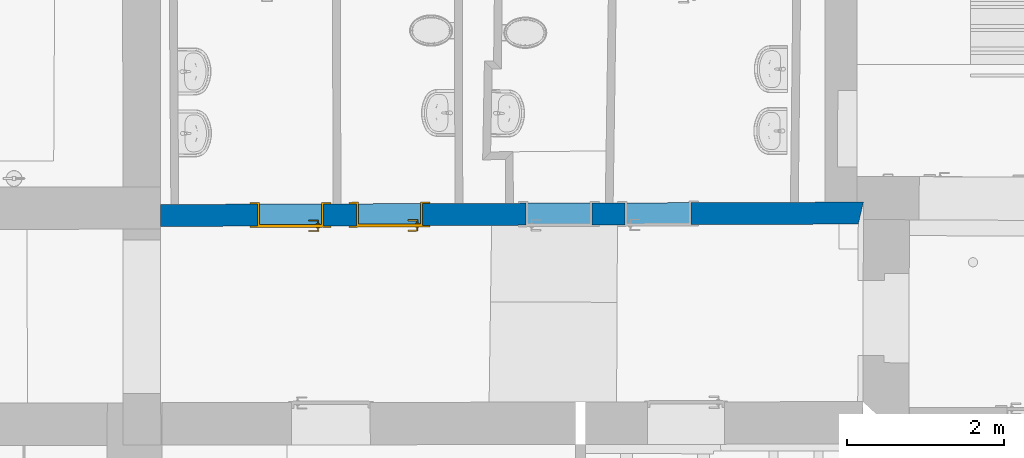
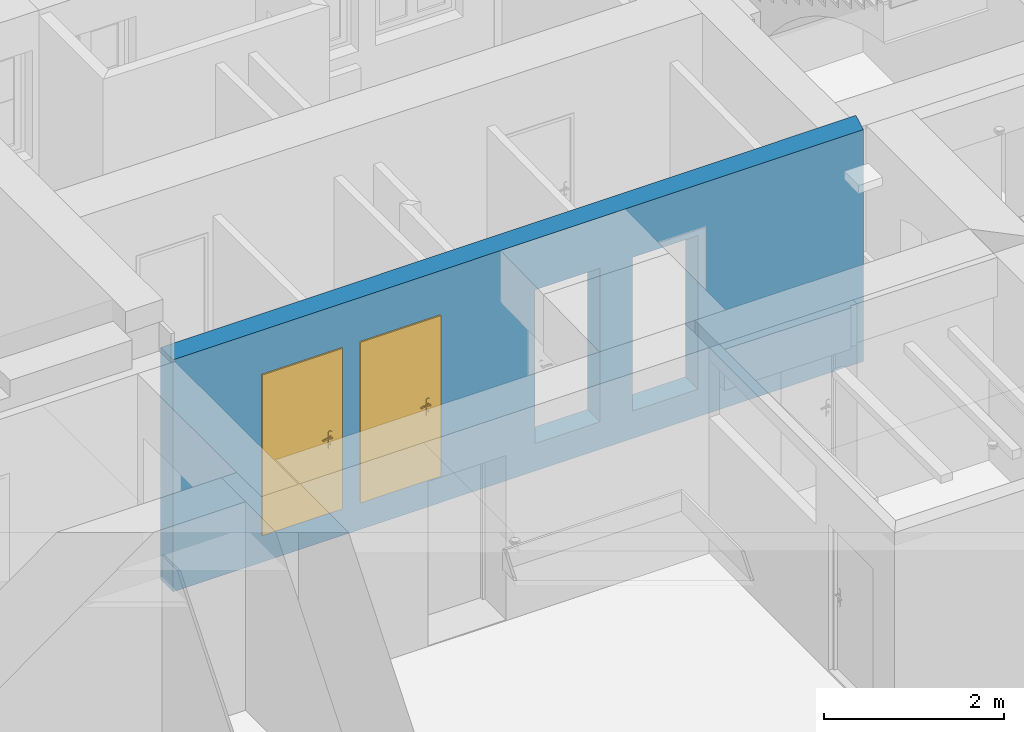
# One storey, part 47 of 196: 2 doors, 1 wall, 4 openings.
"""IFC2X3 building model written with IfcOpenShell, lengths in metres."""

from ifc_helpers import new_model, entity, si_unit, converted_unit, derived_unit, money_unit, direction, frame, origin_with_axes, origin_2d_with_axis, place, context, subcontext, project, spatial, polyline, rectangle, outline, extrude, faceted_brep, source, transform, mapped, material, layer, layer_set, layer_usage, type_object, element, fill, save


model = new_model("IFC2X3")

# Units and contexts
model_context = context("Model", 3, precision=1e-05, world=origin_with_axes(), true_north=direction((0.0, 1.0)))
body_context = subcontext(model_context, "Body", "Model", "MODEL_VIEW")
ifc_project = project(units=[si_unit("LENGTHUNIT", "METRE"), si_unit("AREAUNIT", "SQUARE_METRE"), si_unit("VOLUMEUNIT", "CUBIC_METRE"), converted_unit("PLANEANGLEUNIT", "DEGREE", entity("IfcPlaneAngleMeasure", 0.0174532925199), si_unit("PLANEANGLEUNIT", "RADIAN"), dimensions=[0, 0, 0, 0, 0, 0, 0]), money_unit("EUR"), converted_unit("TIMEUNIT", "Year", entity("IfcTimeMeasure", 31556926.0), si_unit("TIMEUNIT", "SECOND"), dimensions=[0, 0, 1, 0, 0, 0, 0]), si_unit("MASSUNIT", "GRAM", prefix="KILO"), si_unit("THERMODYNAMICTEMPERATUREUNIT", "DEGREE_CELSIUS"), si_unit("LUMINOUSINTENSITYUNIT", "LUMEN"), si_unit("ENERGYUNIT", "JOULE", prefix="MEGA"), derived_unit("THERMALCONDUCTANCEUNIT", [(si_unit("POWERUNIT", "WATT"), 1), (si_unit("LENGTHUNIT", "METRE"), -1), (si_unit("THERMODYNAMICTEMPERATUREUNIT", "KELVIN"), -1)]), derived_unit("SPECIFICHEATCAPACITYUNIT", [(si_unit("ENERGYUNIT", "JOULE"), 1), (si_unit("MASSUNIT", "GRAM", prefix="KILO"), -1), (si_unit("THERMODYNAMICTEMPERATUREUNIT", "KELVIN"), -1)]), derived_unit("MASSDENSITYUNIT", [(si_unit("MASSUNIT", "GRAM", prefix="KILO"), 1), (si_unit("VOLUMEUNIT", "CUBIC_METRE"), -1)])], contexts=[model_context])

# Site, building, storey
site_placement = place(None, origin_with_axes())
site = spatial("IfcSite", under=ifc_project, at=site_placement, Name="Gelände", CompositionType="ELEMENT")
building_placement = place(site_placement, origin_with_axes())
building = spatial("IfcBuilding", under=site, at=building_placement, Name="Gebäude", CompositionType="ELEMENT")
storey_placement = place(building_placement, frame((0.0, 0.0, -3.0), z_axis=(0.0, 0.0, 1.0), x_axis=(1.0, 0.0, 0.0)))
storey = spatial("IfcBuildingStorey", under=building, at=storey_placement, Name="KELLERGESCHOSS", CompositionType="ELEMENT", Elevation=-3.0)

# Wall, openings, doors
ifc_material = material(Name="05_ALLGEMEIN - TRAGENDE BAUTEILE")
ifc_layer = layer(ifc_material, 0.28, ventilated="UNKNOWN")
ifc_layer_set = layer_set([ifc_layer], Name="05_ALLGEMEIN - TRAGENDE BAUTEILE 0.28")
ifc_layer_usage = layer_usage(ifc_layer_set, "AXIS2", "NEGATIVE", 0.28)
wall_type = type_object("IfcWallType", Name="05_ALLGEMEIN - TRAGENDE BAUTEILE 280", PredefinedType="ELEMENTEDWALL")
wall_placement = place(storey_placement, frame((12.5479035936, 19.1983411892, -0.36), z_axis=(0.0, 0.0, 1.0), x_axis=(0.999994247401, 0.00339192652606, 0.0)))
wall = element("IfcWallStandardCase", 1, at=wall_placement, inside=storey, type_object=wall_type, material=ifc_layer_usage, Name="Wand-039", ObjectType="ELEMENTEDWALL", context=body_context, shape_type="SweptSolid", body=[
    extrude(outline(polyline([(0.480001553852, 0.0), (9.36265361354, 0.0), (9.42943294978, 0.28), (0.480714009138, 0.28), (0.480001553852, 0.0)])), origin_with_axes(), (0.0, 0.0, 1.0), 3.15),
])
opening_1_placement = place(wall_placement, frame((2.13369699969, 0.0, 0.372925), z_axis=(0.0, 0.0, 1.0), x_axis=(1.0, 0.0, 0.0)))
opening_1 = element("IfcOpeningElement", 2, at=opening_1_placement, cuts=wall, Name="Tür-022", context=body_context, shape_type="SweptSolid", body=[
    extrude(rectangle(XDim=0.840428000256, YDim=2.086604, at=origin_2d_with_axis()), frame((0.0, -0.28, 1.043302), z_axis=(0.0, 1.0, 0.0), x_axis=(-1.0, 0.0, 0.0)), (0.0, 0.0, 1.0), 0.84),
])
opening_2_placement = place(wall_placement, frame((3.39699742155, 0.0, 0.372925), z_axis=(0.0, 0.0, 1.0), x_axis=(1.0, 0.0, 0.0)))
opening_2 = element("IfcOpeningElement", 3, at=opening_2_placement, cuts=wall, Name="Tür-022", context=body_context, shape_type="SweptSolid", body=[
    extrude(rectangle(XDim=0.840428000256, YDim=2.086604, at=origin_2d_with_axis()), frame((0.0, -0.28, 1.043302), z_axis=(0.0, 1.0, 0.0), x_axis=(-1.0, 0.0, 0.0)), (0.0, 0.0, 1.0), 0.84),
])
opening_3_placement = place(wall_placement, frame((5.55419472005, 0.0, 0.372925), z_axis=(0.0, 0.0, 1.0), x_axis=(1.0, 0.0, 0.0)))
element("IfcOpeningElement", 4, at=opening_3_placement, cuts=wall, Name="Tür-022", context=body_context, shape_type="SweptSolid", body=[
    extrude(rectangle(XDim=0.840428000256, YDim=2.086604, at=origin_2d_with_axis()), frame((0.0, 0.28, 1.043302), z_axis=(0.0, 1.0, 0.0), x_axis=(1.0, 0.0, 0.0)), (0.0, 0.0, -1.0), 0.84),
])
opening_4_placement = place(wall_placement, frame((6.8127541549, 0.0, 0.372925), z_axis=(0.0, 0.0, 1.0), x_axis=(1.0, 0.0, 0.0)))
element("IfcOpeningElement", 5, at=opening_4_placement, cuts=wall, Name="Tür-022", context=body_context, shape_type="SweptSolid", body=[
    extrude(rectangle(XDim=0.840428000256, YDim=2.086604, at=origin_2d_with_axis()), frame((0.0, 0.28, 1.043302), z_axis=(0.0, 1.0, 0.0), x_axis=(1.0, 0.0, 0.0)), (0.0, 0.0, -1.0), 0.84),
])
door_style = type_object("IfcDoorStyle", Name="Blockrahmentür 1-Fl 25", ConstructionType="NOTDEFINED", OperationType="SINGLE_SWING_RIGHT", ParameterTakesPrecedence=False, Sizeable=False)
shared_shape = source(origin_with_axes(), body_context, "Body", "Brep", [
    faceted_brep([(0.420214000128, -0.34, 0.0), (0.420214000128, -0.06, 0.0), (0.420214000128, -0.06, 2.086604), (0.420214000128, -0.34, 2.086604), (0.395214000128, -0.34, 0.0), (0.395214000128, -0.06, 0.0), (0.395214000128, -0.06, 2.061604), (0.1151, -0.06, 2.061604), (0.0001, -0.06, 2.061604), (-0.395214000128, -0.06, 2.061604), (-0.395214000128, -0.06, 0.0), (-0.420214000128, -0.06, 0.0), (-0.420214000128, -0.06, 2.086604), (-0.420214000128, -0.34, 2.086604), (-0.420214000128, -0.34, 0.0), (-0.395214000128, -0.34, 0.0), (-0.395214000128, -0.34, 2.061604), (0.0001, -0.34, 2.061604), (0.1151, -0.34, 2.061604), (0.395214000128, -0.34, 2.061604)], [[[0, 1, 2, 3]], [[4, 5, 1, 0]], [[1, 5, 6, 7, 8, 9, 10, 11, 12, 2]], [[3, 2, 12, 13]], [[0, 3, 13, 14, 15, 16, 17, 18, 19, 4]], [[19, 6, 5, 4]], [[18, 7, 6, 19]], [[17, 8, 7, 18]], [[16, 9, 8, 17]], [[15, 10, 9, 16]], [[14, 11, 10, 15]], [[13, 12, 11, 14]]]),
    faceted_brep([(0.420214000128, -0.06, 0.0), (0.420214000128, -0.02, 0.0), (0.420214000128, -0.02, 2.086604), (0.420214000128, -0.06, 2.086604), (0.410214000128, -0.06, 0.0), (0.410214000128, -0.02, 0.0), (0.410214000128, -0.02, 2.076604), (0.1001, -0.02, 2.076604), (0.0151, -0.02, 2.076604), (-0.410214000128, -0.02, 2.076604), (-0.410214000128, -0.02, 0.0), (-0.420214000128, -0.02, 0.0), (-0.420214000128, -0.02, 2.086604), (-0.420214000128, -0.06, 2.086604), (-0.420214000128, -0.06, 0.0), (-0.410214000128, -0.06, 0.0), (-0.410214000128, -0.06, 2.076604), (0.0151, -0.06, 2.076604), (0.1001, -0.06, 2.076604), (0.410214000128, -0.06, 2.076604)], [[[0, 1, 2, 3]], [[4, 5, 1, 0]], [[1, 5, 6, 7, 8, 9, 10, 11, 12, 2]], [[3, 2, 12, 13]], [[0, 3, 13, 14, 15, 16, 17, 18, 19, 4]], [[19, 6, 5, 4]], [[18, 7, 6, 19]], [[17, 8, 7, 18]], [[16, 9, 8, 17]], [[15, 10, 9, 16]], [[14, 11, 10, 15]], [[13, 12, 11, 14]]]),
    faceted_brep([(0.515214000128, -0.34, 0.0), (0.515214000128, -0.32, 0.0), (0.515214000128, -0.32, 2.181604), (0.515214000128, -0.34, 2.181604), (0.420214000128, -0.34, 0.0), (0.420214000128, -0.32, 0.0), (0.420214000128, -0.32, 2.086604), (-0.420214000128, -0.32, 2.086604), (-0.420214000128, -0.32, 0.0), (-0.515214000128, -0.32, 0.0), (-0.515214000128, -0.32, 2.181604), (-0.515214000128, -0.34, 2.181604), (-0.515214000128, -0.34, 0.0), (-0.420214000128, -0.34, 0.0), (-0.420214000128, -0.34, 2.086604), (0.420214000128, -0.34, 2.086604)], [[[0, 1, 2, 3]], [[4, 5, 1, 0]], [[1, 5, 6, 7, 8, 9, 10, 2]], [[3, 2, 10, 11]], [[0, 3, 11, 12, 13, 14, 15, 4]], [[15, 6, 5, 4]], [[14, 7, 6, 15]], [[13, 8, 7, 14]], [[12, 9, 8, 13]], [[11, 10, 9, 12]]]),
    faceted_brep([(0.515214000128, -0.04, 0.0), (0.515214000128, -0.02, 0.0), (0.515214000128, -0.02, 2.181604), (0.515214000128, -0.04, 2.181604), (0.420214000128, -0.04, 0.0), (0.420214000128, -0.02, 0.0), (0.420214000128, -0.02, 2.086604), (-0.420214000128, -0.02, 2.086604), (-0.420214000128, -0.02, 0.0), (-0.515214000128, -0.02, 0.0), (-0.515214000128, -0.02, 2.181604), (-0.515214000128, -0.04, 2.181604), (-0.515214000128, -0.04, 0.0), (-0.420214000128, -0.04, 0.0), (-0.420214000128, -0.04, 2.086604), (0.420214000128, -0.04, 2.086604)], [[[0, 1, 2, 3]], [[4, 5, 1, 0]], [[1, 5, 6, 7, 8, 9, 10, 2]], [[3, 2, 10, 11]], [[0, 3, 11, 12, 13, 14, 15, 4]], [[15, 6, 5, 4]], [[14, 7, 6, 15]], [[13, 8, 7, 14]], [[12, 9, 8, 13]], [[11, 10, 9, 12]]]),
    faceted_brep([(0.410214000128, -0.023, 0.0), (-0.410214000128, -0.023, 0.0), (-0.410214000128, -0.023, 2.076604), (0.410214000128, -0.023, 2.076604), (0.410214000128, -0.06, 0.0), (-0.410214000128, -0.06, 0.0), (-0.410214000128, -0.06, 2.076604), (0.410214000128, -0.06, 2.076604)], [[[0, 1, 2, 3]], [[1, 0, 4, 5]], [[2, 1, 5, 6]], [[3, 2, 6, 7]], [[0, 3, 7, 4]], [[5, 4, 7, 6]]]),
    faceted_brep([(-0.354916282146, -0.1, 1.05647213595), (-0.350214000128, -0.1, 1.058), (-0.350214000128, -0.08, 1.058), (-0.354916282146, -0.08, 1.05647213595), (-0.357822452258, -0.1, 1.05247213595), (-0.357822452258, -0.1, 1.04752786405), (-0.354916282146, -0.1, 1.04352786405), (-0.350214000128, -0.1, 1.042), (-0.34551171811, -0.1, 1.04352786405), (-0.342605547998, -0.1, 1.04752786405), (-0.342605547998, -0.1, 1.05247213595), (-0.34551171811, -0.1, 1.05647213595), (-0.34551171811, -0.08, 1.05647213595), (-0.350214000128, -0.078, 1.06), (-0.356091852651, -0.078, 1.05809016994), (-0.357822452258, -0.08, 1.05247213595), (-0.357822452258, -0.08, 1.04752786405), (-0.354916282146, -0.08, 1.04352786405), (-0.350214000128, -0.08, 1.042), (-0.34551171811, -0.08, 1.04352786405), (-0.342605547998, -0.08, 1.04752786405), (-0.342605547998, -0.08, 1.05247213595), (-0.344336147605, -0.078, 1.05809016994), (-0.350214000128, -0.07, 1.06), (-0.356091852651, -0.07, 1.05809016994), (-0.359724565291, -0.078, 1.05309016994), (-0.359724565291, -0.078, 1.04690983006), (-0.356091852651, -0.078, 1.04190983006), (-0.350214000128, -0.078, 1.04), (-0.344336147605, -0.078, 1.04190983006), (-0.340703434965, -0.078, 1.04690983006), (-0.340703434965, -0.078, 1.05309016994), (-0.344336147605, -0.07, 1.05809016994), (-0.340703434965, -0.07, 1.05309016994), (-0.340703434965, -0.07, 1.04690983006), (-0.344336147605, -0.07, 1.04190983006), (-0.350214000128, -0.07, 1.04), (-0.356091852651, -0.07, 1.04190983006), (-0.359724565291, -0.07, 1.04690983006), (-0.359724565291, -0.07, 1.05309016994)], [[[0, 1, 2, 3]], [[1, 0, 4, 5, 6, 7, 8, 9, 10, 11]], [[1, 11, 12, 2]], [[3, 2, 13, 14]], [[4, 0, 3, 15]], [[5, 4, 15, 16]], [[6, 5, 16, 17]], [[7, 6, 17, 18]], [[8, 7, 18, 19]], [[9, 8, 19, 20]], [[10, 9, 20, 21]], [[11, 10, 21, 12]], [[2, 12, 22, 13]], [[14, 13, 23, 24]], [[15, 3, 14, 25]], [[16, 15, 25, 26]], [[17, 16, 26, 27]], [[18, 17, 27, 28]], [[19, 18, 28, 29]], [[20, 19, 29, 30]], [[21, 20, 30, 31]], [[12, 21, 31, 22]], [[13, 22, 32, 23]], [[23, 32, 33, 34, 35, 36, 37, 38, 39, 24]], [[25, 14, 24, 39]], [[26, 25, 39, 38]], [[27, 26, 38, 37]], [[28, 27, 37, 36]], [[29, 28, 36, 35]], [[30, 29, 35, 34]], [[31, 30, 34, 33]], [[22, 31, 33, 32]]]),
    faceted_brep([(-0.338025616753, -0.07, 1.11759695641), (-0.345770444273, -0.07, 1.12195567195), (-0.354657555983, -0.07, 1.12195567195), (-0.362402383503, -0.07, 1.11759695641), (-0.367014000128, -0.07, 1.11), (-0.372714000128, -0.07, 1.11), (-0.372714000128, -0.07, 0.89), (-0.367014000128, -0.07, 0.89), (-0.362402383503, -0.07, 0.882403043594), (-0.354657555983, -0.07, 0.878044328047), (-0.345770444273, -0.07, 0.878044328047), (-0.338025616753, -0.07, 0.882403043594), (-0.333414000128, -0.07, 0.89), (-0.327714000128, -0.07, 0.89), (-0.327714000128, -0.07, 1.11), (-0.333414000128, -0.07, 1.11), (-0.350214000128, -0.07, 0.967425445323), (-0.344838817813, -0.07, 0.965143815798), (-0.342746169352, -0.07, 0.959692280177), (-0.345214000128, -0.07, 0.9544), (-0.345214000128, -0.07, 0.9375), (-0.346678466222, -0.07, 0.933964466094), (-0.350214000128, -0.07, 0.9325), (-0.353749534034, -0.07, 0.933964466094), (-0.355214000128, -0.07, 0.9375), (-0.355214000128, -0.07, 0.9544), (-0.357681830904, -0.07, 0.959692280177), (-0.355589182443, -0.07, 0.965143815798), (-0.338025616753, -0.06, 1.11759695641), (-0.345770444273, -0.06, 1.12195567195), (-0.354657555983, -0.06, 1.12195567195), (-0.362402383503, -0.06, 1.11759695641), (-0.367014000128, -0.06, 1.11), (-0.372714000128, -0.06, 1.11), (-0.372714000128, -0.06, 0.89), (-0.367014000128, -0.06, 0.89), (-0.362402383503, -0.06, 0.882403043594), (-0.354657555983, -0.06, 0.878044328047), (-0.345770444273, -0.06, 0.878044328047), (-0.338025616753, -0.06, 0.882403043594), (-0.333414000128, -0.06, 0.89), (-0.327714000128, -0.06, 0.89), (-0.327714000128, -0.06, 1.11), (-0.333414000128, -0.06, 1.11), (-0.350214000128, -0.06, 0.967425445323), (-0.344838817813, -0.06, 0.965143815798), (-0.342746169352, -0.06, 0.959692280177), (-0.345214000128, -0.06, 0.9544), (-0.345214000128, -0.06, 0.9375), (-0.346678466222, -0.06, 0.933964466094), (-0.350214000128, -0.06, 0.9325), (-0.353749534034, -0.06, 0.933964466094), (-0.355214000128, -0.06, 0.9375), (-0.355214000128, -0.06, 0.9544), (-0.357681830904, -0.06, 0.959692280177), (-0.355589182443, -0.06, 0.965143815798)], [[[0, 1, 2, 3, 4, 5, 6, 7, 8, 9, 10, 11, 12, 13, 14, 15], [16, 17, 18, 19, 20, 21, 22, 23, 24, 25, 26, 27]], [[1, 0, 28, 29]], [[2, 1, 29, 30]], [[3, 2, 30, 31]], [[4, 3, 31, 32]], [[5, 4, 32, 33]], [[6, 5, 33, 34]], [[7, 6, 34, 35]], [[8, 7, 35, 36]], [[9, 8, 36, 37]], [[10, 9, 37, 38]], [[11, 10, 38, 39]], [[12, 11, 39, 40]], [[13, 12, 40, 41]], [[14, 13, 41, 42]], [[15, 14, 42, 43]], [[0, 15, 43, 28]], [[17, 16, 44, 45]], [[18, 17, 45, 46]], [[19, 18, 46, 47]], [[19, 47, 48, 20]], [[20, 48, 49, 21]], [[21, 49, 50, 22]], [[22, 50, 51, 23]], [[23, 51, 52, 24]], [[53, 25, 24, 52]], [[26, 25, 53, 54]], [[27, 26, 54, 55]], [[16, 27, 55, 44]], [[40, 39, 38, 37, 36, 35, 34, 33, 32, 31, 30, 29, 28, 43, 42, 41], [54, 53, 52, 51, 50, 49, 48, 47, 46, 45, 44, 55]]]),
    faceted_brep([(-0.235961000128, -0.1, 1.057158), (-0.235961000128, -0.115, 1.057158), (-0.235959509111, -0.115, 1.05719388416), (-0.235959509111, -0.1, 1.05719388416), (-0.262988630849, -0.1, 1.06432652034), (-0.262988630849, -0.115, 1.06432652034), (-0.290816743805, -0.115, 1.06706086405), (-0.318722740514, -0.115, 1.06529002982), (-0.345982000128, -0.115, 1.05906), (-0.352384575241, -0.115, 1.05976125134), (-0.357886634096, -0.115, 1.05641280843), (-0.360205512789, -0.115, 1.05040385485), (-0.35837916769, -0.115, 1.04422735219), (-0.353165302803, -0.115, 1.04044577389), (-0.346727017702, -0.115, 1.04062800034), (-0.341735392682, -0.115, 1.04469843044), (-0.341756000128, -0.115, 1.044666), (-0.316467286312, -0.115, 1.05019878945), (-0.290624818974, -0.115, 1.05171460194), (-0.26486268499, -0.115, 1.04917624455), (-0.239813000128, -0.115, 1.042646), (-0.234269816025, -0.115, 1.04356849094), (-0.230908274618, -0.115, 1.04807159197), (-0.231599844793, -0.115, 1.05364829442), (-0.231599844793, -0.1, 1.05364829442), (-0.230908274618, -0.1, 1.04807159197), (-0.234269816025, -0.1, 1.04356849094), (-0.239813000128, -0.1, 1.042646), (-0.26486268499, -0.1, 1.04917624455), (-0.290624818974, -0.1, 1.05171460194), (-0.316467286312, -0.1, 1.05019878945), (-0.341756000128, -0.1, 1.044666), (-0.341735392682, -0.1, 1.04469843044), (-0.346727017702, -0.1, 1.04062800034), (-0.353165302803, -0.1, 1.04044577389), (-0.35837916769, -0.1, 1.04422735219), (-0.360205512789, -0.1, 1.05040385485), (-0.357886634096, -0.1, 1.05641280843), (-0.352384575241, -0.1, 1.05976125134), (-0.345982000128, -0.1, 1.05906), (-0.318722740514, -0.1, 1.06529002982), (-0.290816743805, -0.1, 1.06706086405)], [[[0, 1, 2, 3]], [[4, 5, 1, 0]], [[1, 5, 6, 7, 8, 9, 10, 11, 12, 13, 14, 15, 16, 17, 18, 19, 20, 21, 22, 23, 2]], [[3, 2, 23, 24]], [[0, 3, 24, 25, 26, 27, 28, 29, 30, 31, 32, 33, 34, 35, 36, 37, 38, 39, 40, 41, 4]], [[41, 6, 5, 4]], [[40, 7, 6, 41]], [[39, 8, 7, 40]], [[38, 9, 8, 39]], [[37, 10, 9, 38]], [[36, 11, 10, 37]], [[35, 12, 11, 36]], [[34, 13, 12, 35]], [[33, 14, 13, 34]], [[32, 15, 14, 33]], [[31, 16, 15, 32]], [[30, 17, 16, 31]], [[29, 18, 17, 30]], [[28, 19, 18, 29]], [[27, 20, 19, 28]], [[26, 21, 20, 27]], [[25, 22, 21, 26]], [[24, 23, 22, 25]]]),
    faceted_brep([(-0.354916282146, 0.017, 1.05647213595), (-0.354916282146, -0.003, 1.05647213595), (-0.350214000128, -0.003, 1.058), (-0.350214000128, 0.017, 1.058), (-0.357822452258, 0.017, 1.05247213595), (-0.357822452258, -0.003, 1.05247213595), (-0.356091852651, -0.005, 1.05809016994), (-0.350214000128, -0.005, 1.06), (-0.34551171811, -0.003, 1.05647213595), (-0.34551171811, 0.017, 1.05647213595), (-0.342605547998, 0.017, 1.05247213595), (-0.342605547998, 0.017, 1.04752786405), (-0.34551171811, 0.017, 1.04352786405), (-0.350214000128, 0.017, 1.042), (-0.354916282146, 0.017, 1.04352786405), (-0.357822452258, 0.017, 1.04752786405), (-0.357822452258, -0.003, 1.04752786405), (-0.359724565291, -0.005, 1.05309016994), (-0.356091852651, -0.013, 1.05809016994), (-0.350214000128, -0.013, 1.06), (-0.344336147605, -0.005, 1.05809016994), (-0.342605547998, -0.003, 1.05247213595), (-0.342605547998, -0.003, 1.04752786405), (-0.34551171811, -0.003, 1.04352786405), (-0.350214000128, -0.003, 1.042), (-0.354916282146, -0.003, 1.04352786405), (-0.359724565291, -0.005, 1.04690983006), (-0.359724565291, -0.013, 1.05309016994), (-0.359724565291, -0.013, 1.04690983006), (-0.356091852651, -0.013, 1.04190983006), (-0.350214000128, -0.013, 1.04), (-0.344336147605, -0.013, 1.04190983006), (-0.340703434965, -0.013, 1.04690983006), (-0.340703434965, -0.013, 1.05309016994), (-0.344336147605, -0.013, 1.05809016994), (-0.340703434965, -0.005, 1.05309016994), (-0.340703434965, -0.005, 1.04690983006), (-0.344336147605, -0.005, 1.04190983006), (-0.350214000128, -0.005, 1.04), (-0.356091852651, -0.005, 1.04190983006)], [[[0, 1, 2, 3]], [[4, 5, 1, 0]], [[1, 6, 7, 2]], [[3, 2, 8, 9]], [[3, 9, 10, 11, 12, 13, 14, 15, 4, 0]], [[15, 16, 5, 4]], [[5, 17, 6, 1]], [[6, 18, 19, 7]], [[2, 7, 20, 8]], [[9, 8, 21, 10]], [[10, 21, 22, 11]], [[11, 22, 23, 12]], [[12, 23, 24, 13]], [[13, 24, 25, 14]], [[14, 25, 16, 15]], [[16, 26, 17, 5]], [[17, 27, 18, 6]], [[19, 18, 27, 28, 29, 30, 31, 32, 33, 34]], [[7, 19, 34, 20]], [[8, 20, 35, 21]], [[21, 35, 36, 22]], [[22, 36, 37, 23]], [[23, 37, 38, 24]], [[24, 38, 39, 25]], [[25, 39, 26, 16]], [[26, 28, 27, 17]], [[39, 29, 28, 26]], [[38, 30, 29, 39]], [[37, 31, 30, 38]], [[36, 32, 31, 37]], [[35, 33, 32, 36]], [[20, 34, 33, 35]]]),
    faceted_brep([(-0.338025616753, -0.023, 1.11759695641), (-0.345770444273, -0.023, 1.12195567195), (-0.354657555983, -0.023, 1.12195567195), (-0.362402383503, -0.023, 1.11759695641), (-0.367014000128, -0.023, 1.11), (-0.372714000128, -0.023, 1.11), (-0.372714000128, -0.023, 0.89), (-0.367014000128, -0.023, 0.89), (-0.362402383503, -0.023, 0.882403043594), (-0.354657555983, -0.023, 0.878044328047), (-0.345770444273, -0.023, 0.878044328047), (-0.338025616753, -0.023, 0.882403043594), (-0.333414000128, -0.023, 0.89), (-0.327714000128, -0.023, 0.89), (-0.327714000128, -0.023, 1.11), (-0.333414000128, -0.023, 1.11), (-0.350214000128, -0.023, 0.967425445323), (-0.344838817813, -0.023, 0.965143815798), (-0.342746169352, -0.023, 0.959692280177), (-0.345214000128, -0.023, 0.9544), (-0.345214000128, -0.023, 0.9375), (-0.346678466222, -0.023, 0.933964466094), (-0.350214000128, -0.023, 0.9325), (-0.353749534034, -0.023, 0.933964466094), (-0.355214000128, -0.023, 0.9375), (-0.355214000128, -0.023, 0.9544), (-0.357681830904, -0.023, 0.959692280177), (-0.355589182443, -0.023, 0.965143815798), (-0.345770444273, -0.013, 1.12195567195), (-0.338025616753, -0.013, 1.11759695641), (-0.354657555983, -0.013, 1.12195567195), (-0.362402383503, -0.013, 1.11759695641), (-0.367014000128, -0.013, 1.11), (-0.372714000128, -0.013, 1.11), (-0.372714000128, -0.013, 0.89), (-0.367014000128, -0.013, 0.89), (-0.362402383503, -0.013, 0.882403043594), (-0.354657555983, -0.013, 0.878044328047), (-0.345770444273, -0.013, 0.878044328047), (-0.338025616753, -0.013, 0.882403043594), (-0.333414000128, -0.013, 0.89), (-0.327714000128, -0.013, 0.89), (-0.327714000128, -0.013, 1.11), (-0.333414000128, -0.013, 1.11), (-0.350214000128, -0.013, 0.967425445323), (-0.344838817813, -0.013, 0.965143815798), (-0.342746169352, -0.013, 0.959692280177), (-0.345214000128, -0.013, 0.9544), (-0.345214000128, -0.013, 0.9375), (-0.346678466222, -0.013, 0.933964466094), (-0.350214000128, -0.013, 0.9325), (-0.353749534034, -0.013, 0.933964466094), (-0.355214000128, -0.013, 0.9375), (-0.355214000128, -0.013, 0.9544), (-0.357681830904, -0.013, 0.959692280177), (-0.355589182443, -0.013, 0.965143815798)], [[[0, 1, 2, 3, 4, 5, 6, 7, 8, 9, 10, 11, 12, 13, 14, 15], [16, 17, 18, 19, 20, 21, 22, 23, 24, 25, 26, 27]], [[28, 1, 0, 29]], [[30, 2, 1, 28]], [[31, 3, 2, 30]], [[32, 4, 3, 31]], [[33, 5, 4, 32]], [[34, 6, 5, 33]], [[35, 7, 6, 34]], [[36, 8, 7, 35]], [[37, 9, 8, 36]], [[38, 10, 9, 37]], [[39, 11, 10, 38]], [[40, 12, 11, 39]], [[41, 13, 12, 40]], [[42, 14, 13, 41]], [[43, 15, 14, 42]], [[29, 0, 15, 43]], [[17, 16, 44, 45]], [[18, 17, 45, 46]], [[19, 18, 46, 47]], [[19, 47, 48, 20]], [[20, 48, 49, 21]], [[21, 49, 50, 22]], [[22, 50, 51, 23]], [[23, 51, 52, 24]], [[53, 25, 24, 52]], [[26, 25, 53, 54]], [[27, 26, 54, 55]], [[16, 27, 55, 44]], [[40, 39, 38, 37, 36, 35, 34, 33, 32, 31, 30, 28, 29, 43, 42, 41], [54, 53, 52, 51, 50, 49, 48, 47, 46, 45, 44, 55]]]),
    faceted_brep([(-0.235961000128, 0.017, 1.057158), (-0.235959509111, 0.017, 1.05719388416), (-0.235959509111, 0.032, 1.05719388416), (-0.235961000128, 0.032, 1.057158), (-0.262988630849, 0.017, 1.06432652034), (-0.290816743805, 0.017, 1.06706086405), (-0.318722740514, 0.017, 1.06529002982), (-0.345982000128, 0.017, 1.05906), (-0.352384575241, 0.017, 1.05976125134), (-0.357886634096, 0.017, 1.05641280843), (-0.360205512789, 0.017, 1.05040385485), (-0.35837916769, 0.017, 1.04422735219), (-0.353165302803, 0.017, 1.04044577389), (-0.346727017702, 0.017, 1.04062800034), (-0.341735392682, 0.017, 1.04469843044), (-0.341756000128, 0.017, 1.044666), (-0.316467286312, 0.017, 1.05019878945), (-0.290624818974, 0.017, 1.05171460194), (-0.26486268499, 0.017, 1.04917624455), (-0.239813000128, 0.017, 1.042646), (-0.234269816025, 0.017, 1.04356849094), (-0.230908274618, 0.017, 1.04807159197), (-0.231599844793, 0.017, 1.05364829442), (-0.231599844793, 0.032, 1.05364829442), (-0.230908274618, 0.032, 1.04807159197), (-0.234269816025, 0.032, 1.04356849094), (-0.239813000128, 0.032, 1.042646), (-0.26486268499, 0.032, 1.04917624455), (-0.290624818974, 0.032, 1.05171460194), (-0.316467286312, 0.032, 1.05019878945), (-0.341756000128, 0.032, 1.044666), (-0.341735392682, 0.032, 1.04469843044), (-0.346727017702, 0.032, 1.04062800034), (-0.353165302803, 0.032, 1.04044577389), (-0.35837916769, 0.032, 1.04422735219), (-0.360205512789, 0.032, 1.05040385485), (-0.357886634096, 0.032, 1.05641280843), (-0.352384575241, 0.032, 1.05976125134), (-0.345982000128, 0.032, 1.05906), (-0.318722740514, 0.032, 1.06529002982), (-0.290816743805, 0.032, 1.06706086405), (-0.262988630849, 0.032, 1.06432652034)], [[[0, 1, 2, 3]], [[0, 4, 5, 6, 7, 8, 9, 10, 11, 12, 13, 14, 15, 16, 17, 18, 19, 20, 21, 22, 1]], [[1, 22, 23, 2]], [[3, 2, 23, 24, 25, 26, 27, 28, 29, 30, 31, 32, 33, 34, 35, 36, 37, 38, 39, 40, 41]], [[4, 0, 3, 41]], [[5, 4, 41, 40]], [[6, 5, 40, 39]], [[7, 6, 39, 38]], [[8, 7, 38, 37]], [[9, 8, 37, 36]], [[10, 9, 36, 35]], [[11, 10, 35, 34]], [[12, 11, 34, 33]], [[13, 12, 33, 32]], [[14, 13, 32, 31]], [[15, 14, 31, 30]], [[16, 15, 30, 29]], [[17, 16, 29, 28]], [[18, 17, 28, 27]], [[19, 18, 27, 26]], [[20, 19, 26, 25]], [[21, 20, 25, 24]], [[22, 21, 24, 23]]]),
])
door_1_placement = place(opening_1_placement, frame((0.395214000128, 0.0, 0.0), z_axis=(0.0, 0.0, 1.0), x_axis=(-1.0, 0.0, 0.0)))
door_1 = element("IfcDoor", 6, at=door_1_placement, inside=storey, type_object=door_style, Name="Tür-022", ObjectType="NOTDEFINED", OverallHeight=2.0866, OverallWidth=0.840428, context=body_context, shape_type="MappedRepresentation", body=[
    mapped(shared_shape, transform((0.395214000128, 0.04, 0.0))),
])
fill(opening_1, door_1)
door_2_placement = place(opening_2_placement, frame((0.395214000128, 0.0, 0.0), z_axis=(0.0, 0.0, 1.0), x_axis=(-1.0, 0.0, 0.0)))
door_2 = element("IfcDoor", 7, at=door_2_placement, inside=storey, type_object=door_style, Name="Tür-022", ObjectType="NOTDEFINED", OverallHeight=2.0866, OverallWidth=0.840428, context=body_context, shape_type="MappedRepresentation", body=[
    mapped(shared_shape, transform((0.395214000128, 0.04, 0.0))),
])
fill(opening_2, door_2)

save(model, "model.ifc")
